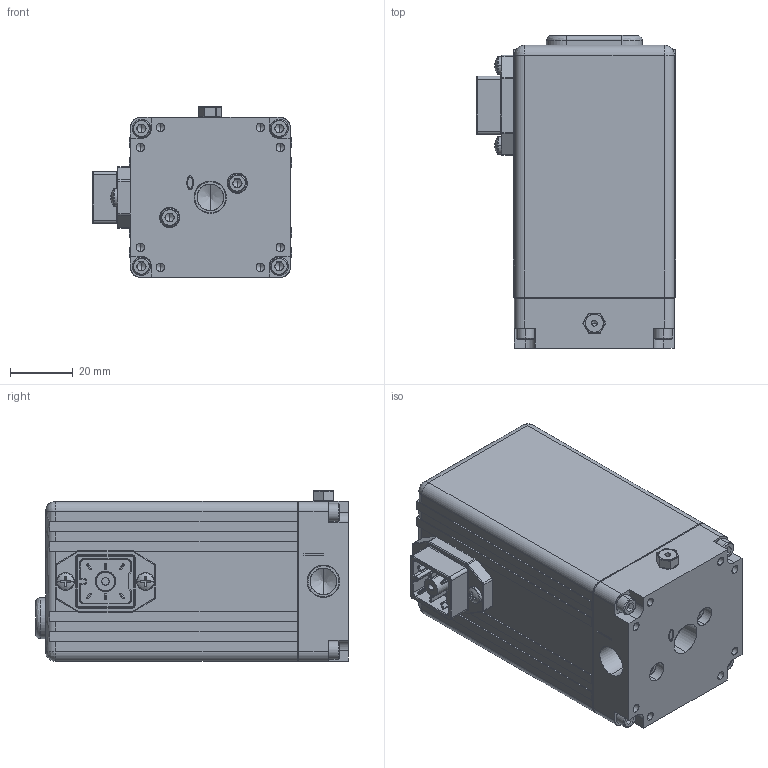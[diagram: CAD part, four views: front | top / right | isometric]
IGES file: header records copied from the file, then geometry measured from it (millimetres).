
Start section: SolidWorks IGES file using analytic representation for surfaces
Global section: file name: \\Profs\data\ENGINEER\MECHANIC\PRODUCTN\QPV\ASSEMBLY\QPV1M_EMAIL-IGES\QPV1M_EMAIL.IGS; native system: SolidWorks 2017; preprocessor: SolidWorks 2017; author: matt; date: 180223.150333; units: inch
Bounding box: 63.25 x 99.44 x 54.24 mm (x, y, z)
Surface area: 55126.6 mm2 (no closed solid volume)
Topology: 0 solids, 0 shells, 847 faces, 8692 edges, 8615 vertices
Faces by surface type: bspline 424, revolution 423
